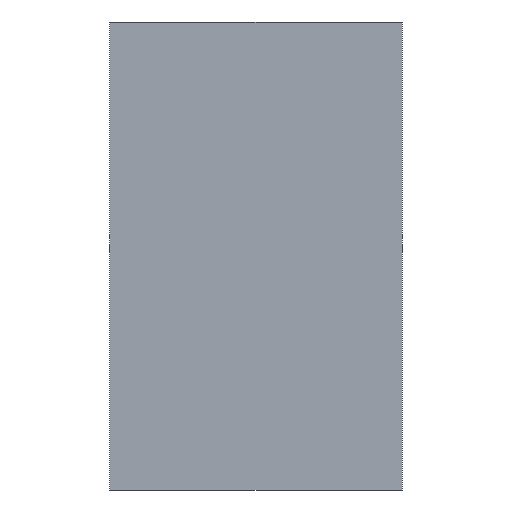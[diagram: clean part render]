
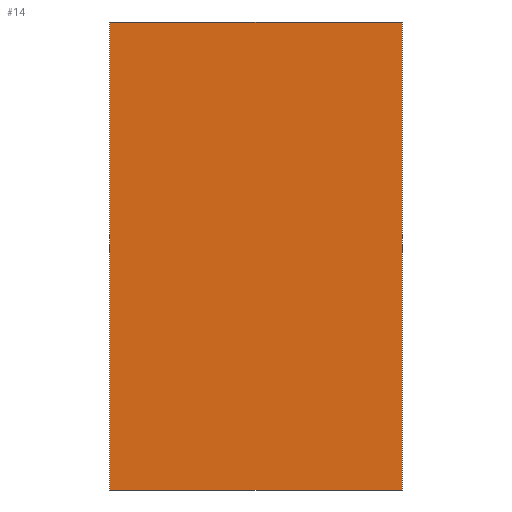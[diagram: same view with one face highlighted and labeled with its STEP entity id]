
A CAD part, front view. The second image highlights one B-rep face of the part: STEP entity #14.
In plain terms, the highlighted planar face has unit normal (0, -1, 0).
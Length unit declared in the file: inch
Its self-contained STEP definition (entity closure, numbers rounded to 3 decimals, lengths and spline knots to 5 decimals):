
#14=ADVANCED_FACE('',(#20),#88,.T.);
#20=FACE_OUTER_BOUND('',#26,.T.);
#26=EDGE_LOOP('',(#32,#33,#34,#35));
#32=ORIENTED_EDGE('',*,*,#56,.T.);
#33=ORIENTED_EDGE('',*,*,#65,.T.);
#34=ORIENTED_EDGE('',*,*,#60,.F.);
#35=ORIENTED_EDGE('',*,*,#64,.F.);
#56=EDGE_CURVE('',#80,#81,#68,.T.);
#60=EDGE_CURVE('',#84,#85,#72,.T.);
#64=EDGE_CURVE('',#80,#84,#76,.T.);
#65=EDGE_CURVE('',#81,#85,#77,.T.);
#68=B_SPLINE_CURVE_WITH_KNOTS('',1,(#217,#218),.UNSPECIFIED.,.F.,.F.,(2,
2),(0.,5.),.UNSPECIFIED.);
#72=B_SPLINE_CURVE_WITH_KNOTS('',1,(#225,#226),.UNSPECIFIED.,.F.,.F.,(2,
2),(0.,5.),.UNSPECIFIED.);
#76=B_SPLINE_CURVE_WITH_KNOTS('',1,(#233,#234),.UNSPECIFIED.,.F.,.F.,(2,
2),(0.,8.),.UNSPECIFIED.);
#77=B_SPLINE_CURVE_WITH_KNOTS('',1,(#235,#236),.UNSPECIFIED.,.F.,.F.,(2,
2),(0.,8.),.UNSPECIFIED.);
#80=VERTEX_POINT('',#209);
#81=VERTEX_POINT('',#210);
#84=VERTEX_POINT('',#213);
#85=VERTEX_POINT('',#214);
#88=PLANE('',#185);
#185=AXIS2_PLACEMENT_3D('',#203,#194,$);
#194=DIRECTION('',(0.,-1.,0.));
#203=CARTESIAN_POINT('',(0.,0.,0.));
#209=CARTESIAN_POINT('',(0.,0.,0.));
#210=CARTESIAN_POINT('',(5.,0.,0.));
#213=CARTESIAN_POINT('',(0.,0.,8.));
#214=CARTESIAN_POINT('',(5.,0.,8.));
#217=CARTESIAN_POINT('',(0.,0.,0.));
#218=CARTESIAN_POINT('',(5.,0.,0.));
#225=CARTESIAN_POINT('',(0.,0.,8.));
#226=CARTESIAN_POINT('',(5.,0.,8.));
#233=CARTESIAN_POINT('',(0.,0.,0.));
#234=CARTESIAN_POINT('',(0.,0.,8.));
#235=CARTESIAN_POINT('',(5.,0.,0.));
#236=CARTESIAN_POINT('',(5.,0.,8.));
